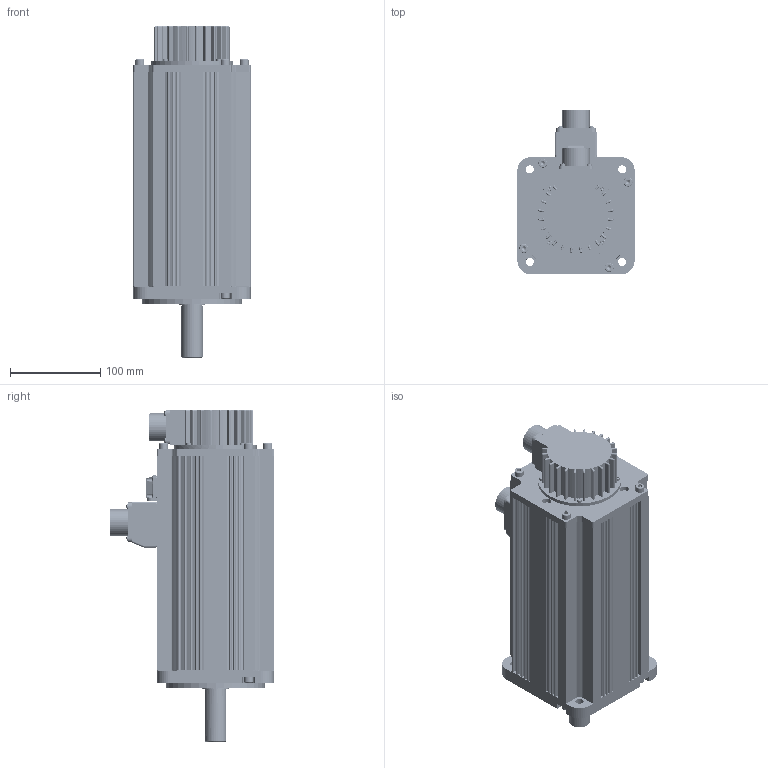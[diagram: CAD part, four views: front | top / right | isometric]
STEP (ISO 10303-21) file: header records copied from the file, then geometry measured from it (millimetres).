
FILE_DESCRIPTION((''),'2;1');
FILE_NAME('PH2-L13C230XXXX1A_ASM','2019-08-22T',('jiangfei6'),(''),'CREO PARAMETRIC BY PTC INC, 2015480','CREO PARAMETRIC BY PTC INC, 2015480','');
FILE_SCHEMA(('CONFIG_CONTROL_DESIGN'));
Products named in the file (20): 80Q0010201_AF0_1; 80D5006501_1; 80D2005201_1; 80D2003201_AF0_1_1; 80D2003201_AF0_1_2; 80D2003201_AF0_1_ASM; 80D2000901_1; 80G3000501_1; 80S6003601_1; 80G6000501_1; 80G3000901_1; 80S6002801_1; 80S5000101_1; MJ01-8038_1; MJ01-8042_1; MJ01-8035_1; MJ01-8033_1; MJ01-8041_1; R130-5KW-SHACHE_ASM_1_ASM; PH2-L13C230XXXX1A_ASM
Assembly tree (38 placements, depth 4):
  PH2-L13C230XXXX1A_ASM
    R130-5KW-SHACHE_ASM_1_ASM
      80Q0010201_AF0_1
      80D5006501_1
      80D2005201_1
      80D2003201_AF0_1_ASM
        80D2003201_AF0_1_1
        80D2003201_AF0_1_2
      80D2000901_1
      80G3000501_1
      80S6003601_1
      80G6000501_1
      80G3000901_1
      80S6002801_1
      80S5000101_1
      MJ01-8038_1  x8
      MJ01-8042_1  x4
      MJ01-8035_1  x4
      MJ01-8033_1  x4
      MJ01-8041_1  x4
Bounding box: 130 x 182.15 x 368.05 mm (x, y, z)
Volume: 951641.7 mm3; surface area: 471647.6 mm2
Topology: 35 solids, 66 shells, 6541 faces, 14900 edges, 8433 vertices
Faces by surface type: cone 2733, cylinder 2560, plane 1098, sphere 108, torus 24, bspline 18
Entity records: 89339 total; most frequent: CARTESIAN_POINT 17349, DIRECTION 16141, ORIENTED_EDGE 14352, EDGE_CURVE 7246, AXIS2_PLACEMENT_3D 6206, VERTEX_POINT 4500, VECTOR 3729, LINE 3729
